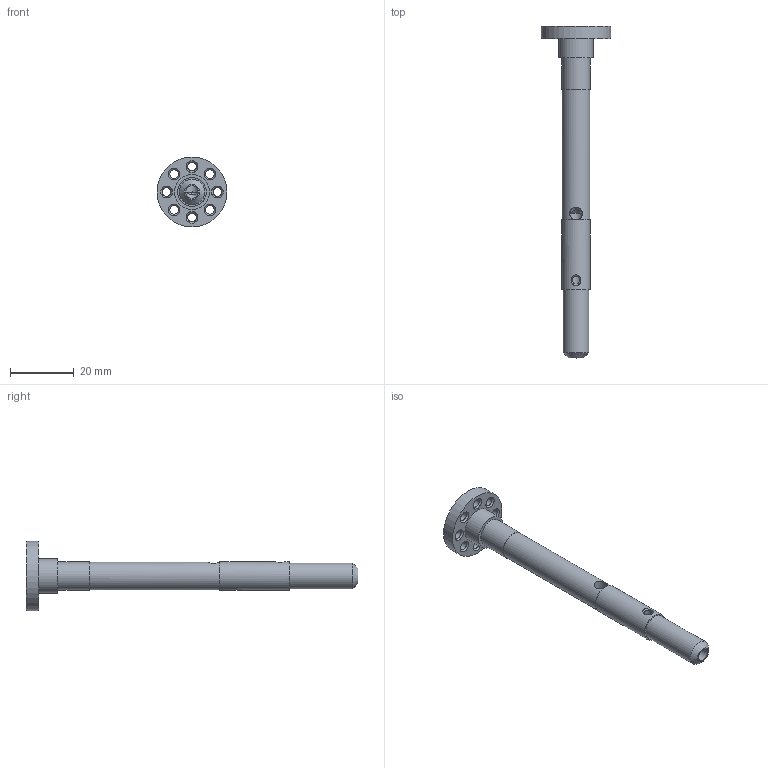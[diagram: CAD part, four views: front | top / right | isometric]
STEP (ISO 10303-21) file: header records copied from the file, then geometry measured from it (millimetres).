
FILE_DESCRIPTION(/* description */ ('Unknown'),/* implementation_level */ '2;1');
FILE_NAME(/* name */ 'Shaft',/* time_stamp */ '2020-08-15T14:30:47+03:00',/* author */ ('Unknown'),/* organization */ ('Unknown'),/* preprocessor_version */ 'ST-DEVELOPER v16.7',/* originating_system */ 'Solid Edge',/* authorisation */ 'Unknown');
FILE_SCHEMA (('AUTOMOTIVE_DESIGN {1 0 10303 214 3 1 1}'));
Length unit declared in the file: millimetre
Products named in the file (1): Shaft
Bounding box: 22 x 104.5 x 22 mm (x, y, z)
Volume: 6440.7 mm3; surface area: 4756.9 mm2
Topology: 1 solids, 1 shells, 40 faces, 99 edges, 63 vertices
Faces by surface type: cylinder 19, cone 14, plane 7
Full cylindrical faces by diameter (mm): 2.459 x1, 2.7 x8, 4 x2, 8 x2, 8.8 x1, 9 x2, 11 x1, 22 x1
Entity records: 1371 total; most frequent: CARTESIAN_POINT 244, DIRECTION 176, ORIENTED_EDGE 120, FACE_BOUND 93, EDGE_LOOP 91, AXIS2_PLACEMENT_3D 87, EDGE_CURVE 60, VERTEX_POINT 57
